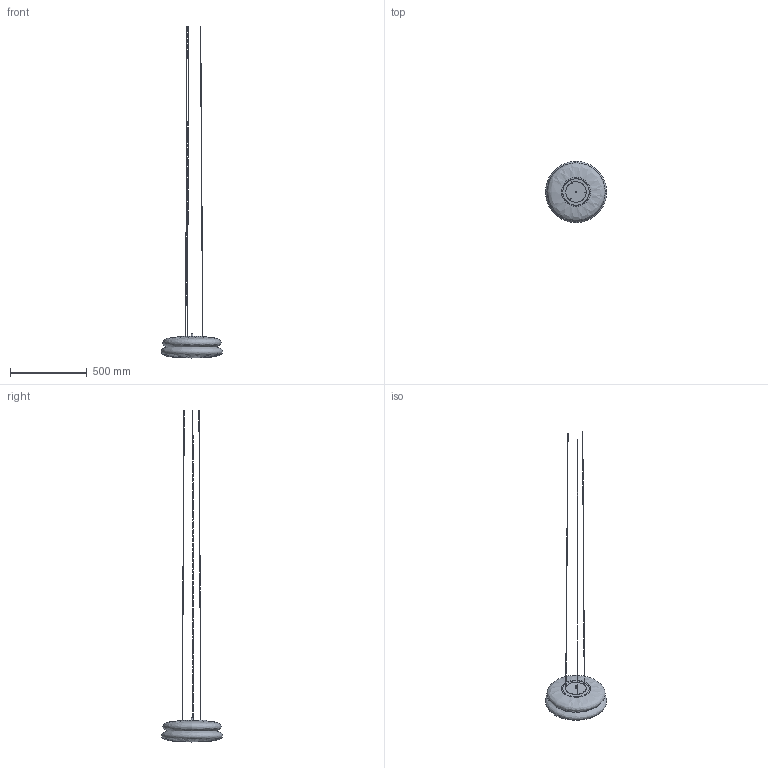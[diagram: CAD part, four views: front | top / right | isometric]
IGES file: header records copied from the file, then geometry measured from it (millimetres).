
Global section: file name: /Users/064_p/Desktop/3d data for homepage/SNOWAN40 P.igs; native system: Rhinoceros ( Jul  7 2025 ); preprocessor: Trout Lake IGES 012 Jul  7 2025; date: 260805.081333; units: millimetre
Bounding box: 399.99 x 400 x 2168.2 mm (x, y, z)
Surface area: 434787.2 mm2 (no closed solid volume)
Topology: 0 solids, 0 shells, 14 faces, 248 edges, 234 vertices
Faces by surface type: bspline 14
